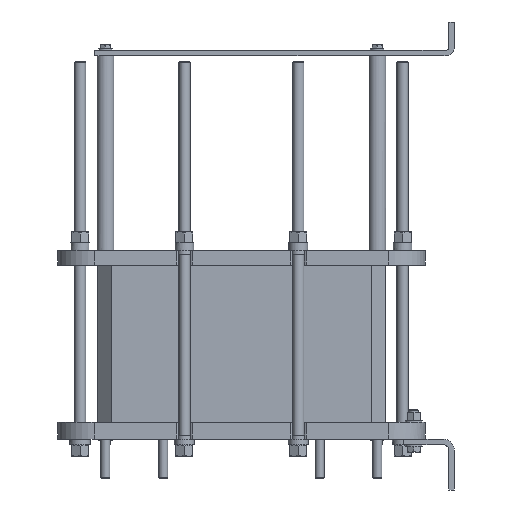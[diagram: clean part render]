
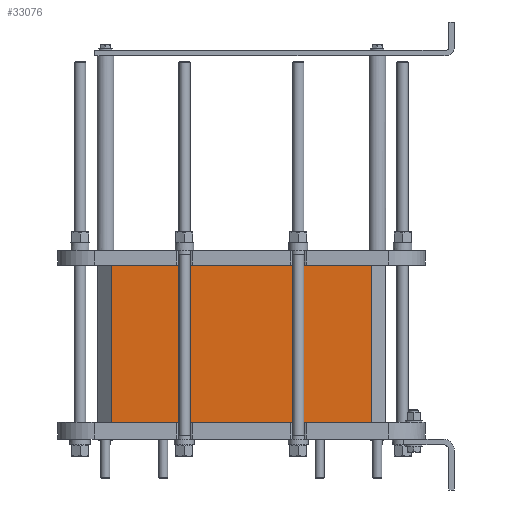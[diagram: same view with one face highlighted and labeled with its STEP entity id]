
A CAD part, left-side view. The second image highlights one B-rep face of the part: STEP entity #33076.
In plain terms, the highlighted planar face has unit normal (-1, 0, 0).
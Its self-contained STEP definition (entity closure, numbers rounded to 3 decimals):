
#30011=CARTESIAN_POINT('',(-166.5,-230.0,0.0));
#30012=VERTEX_POINT('',#30011);
#30019=CARTESIAN_POINT('',(-166.5,230.0,0.0));
#30020=VERTEX_POINT('',#30019);
#30021=CARTESIAN_POINT('',(-166.5,-230.0,0.0));
#30022=DIRECTION('',(0.0,1.0,0.0));
#30023=VECTOR('',#30022,460.0);
#30024=LINE('',#30021,#30023);
#30025=EDGE_CURVE('',#30012,#30020,#30024,.T.);
#31020=CARTESIAN_POINT('',(-166.5,230.0,279.0));
#31021=VERTEX_POINT('',#31020);
#31028=CARTESIAN_POINT('',(-166.5,-230.0,279.0));
#31029=VERTEX_POINT('',#31028);
#31030=CARTESIAN_POINT('',(-166.5,-230.0,279.0));
#31031=DIRECTION('',(0.0,1.0,0.0));
#31032=VECTOR('',#31031,460.0);
#31033=LINE('',#31030,#31032);
#31034=EDGE_CURVE('',#31029,#31021,#31033,.T.);
#33044=CARTESIAN_POINT('',(-166.5,-230.0,0.0));
#33045=DIRECTION('',(0.0,0.0,1.0));
#33046=VECTOR('',#33045,279.0);
#33047=LINE('',#33044,#33046);
#33048=EDGE_CURVE('',#30012,#31029,#33047,.T.);
#33060=CARTESIAN_POINT('',(-166.5,0.0,0.0));
#33061=DIRECTION('',(-1.0,0.0,0.0));
#33062=DIRECTION('',(0.0,0.0,1.0));
#33063=AXIS2_PLACEMENT_3D('',#33060,#33061,#33062);
#33064=PLANE('',#33063);
#33065=ORIENTED_EDGE('',*,*,#31034,.T.);
#33066=CARTESIAN_POINT('',(-166.5,230.0,0.0));
#33067=DIRECTION('',(0.0,0.0,1.0));
#33068=VECTOR('',#33067,279.0);
#33069=LINE('',#33066,#33068);
#33070=EDGE_CURVE('',#30020,#31021,#33069,.T.);
#33071=ORIENTED_EDGE('',*,*,#33070,.F.);
#33072=ORIENTED_EDGE('',*,*,#30025,.F.);
#33073=ORIENTED_EDGE('',*,*,#33048,.T.);
#33074=EDGE_LOOP('',(#33065,#33071,#33072,#33073));
#33075=FACE_OUTER_BOUND('',#33074,.T.);
#33076=ADVANCED_FACE('',(#33075),#33064,.T.);
